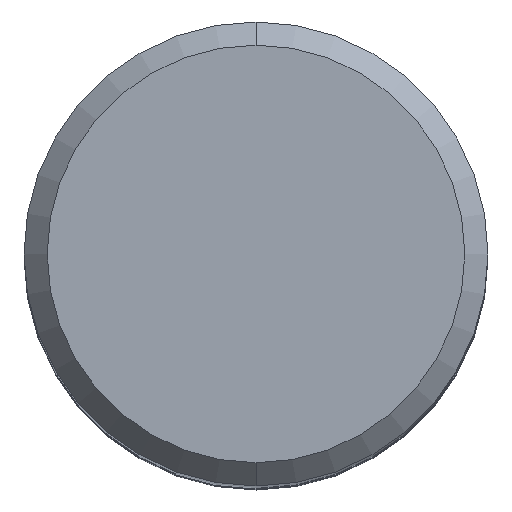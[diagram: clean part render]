
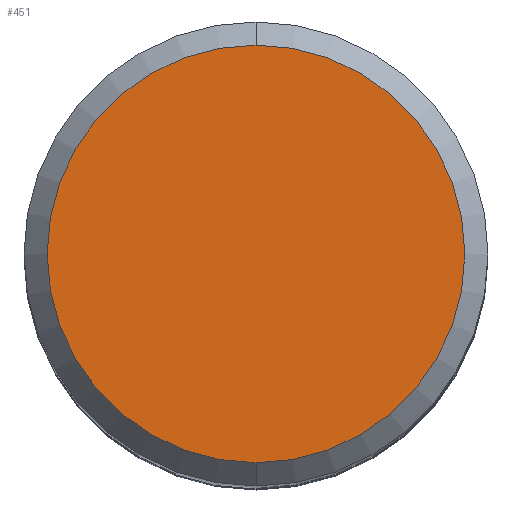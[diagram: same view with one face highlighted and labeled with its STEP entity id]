
A CAD part, top view. The second image highlights one B-rep face of the part: STEP entity #451.
In plain terms, the highlighted planar face has unit normal (0, 0, 1).
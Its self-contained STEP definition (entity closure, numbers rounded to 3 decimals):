
#301=VERTEX_POINT('',#689);
#407=EDGE_CURVE('',#525,#301,#804,.T.);
#451=ADVANCED_FACE('',(#852),#853,.T.);
#525=VERTEX_POINT('',#936);
#547=EDGE_CURVE('',#301,#525,#962,.T.);
#689=CARTESIAN_POINT('',(0.0,9.0,0.0));
#804=CIRCLE('',#1439,9.0);
#852=FACE_OUTER_BOUND('',#1572,.T.);
#853=PLANE('',#1573);
#936=CARTESIAN_POINT('',(0.,-9.0,0.0));
#962=CIRCLE('',#1860,9.0);
#1439=AXIS2_PLACEMENT_3D('',#2124,#2125,#2126);
#1572=EDGE_LOOP('',(#2193,#2194));
#1573=AXIS2_PLACEMENT_3D('',#2195,#2196,#2197);
#1860=AXIS2_PLACEMENT_3D('',#2329,#2330,#2331);
#2124=CARTESIAN_POINT('',(0.0,0.0,0.0));
#2125=DIRECTION('',(0.0,0.0,-1.0));
#2126=DIRECTION('',(0.0,1.0,0.0));
#2193=ORIENTED_EDGE('',*,*,#547,.F.);
#2194=ORIENTED_EDGE('',*,*,#407,.F.);
#2195=CARTESIAN_POINT('',(0.0,4.5,0.0));
#2196=DIRECTION('',(-0.0,0.0,1.0));
#2197=DIRECTION('',(0.0,-1.0,0.0));
#2329=CARTESIAN_POINT('',(0.0,0.0,0.0));
#2330=DIRECTION('',(0.0,0.0,-1.0));
#2331=DIRECTION('',(0.0,1.0,0.0));
